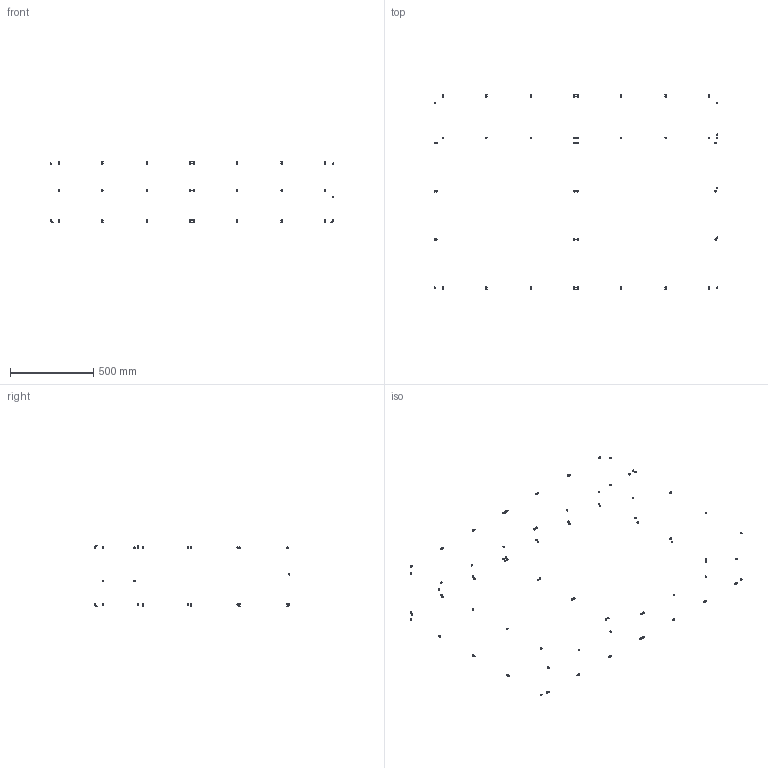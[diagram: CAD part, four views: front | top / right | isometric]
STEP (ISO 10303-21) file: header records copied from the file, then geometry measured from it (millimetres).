
FILE_DESCRIPTION(/* description */ (''),/* implementation_level */ '2;1');
FILE_NAME(/* name */ 'FR73BE~1',/* time_stamp */ '2014-02-14T19:51:54+01:00',/* author */ (''),/* organization */ (''),/* preprocessor_version */ 'ST-DEVELOPER v14',/* originating_system */ '',/* authorisation */ '');
FILE_SCHEMA (('AUTOMOTIVE_DESIGN'));
Length unit declared in the file: millimetre
Products named in the file (2): Document; screw ISO7380-like, button, M5x06
Assembly tree (55 placements, depth 2):
  Document
    screw ISO7380-like, button, M5x06  x55
Bounding box: 1707.5 x 1177.5 x 367.5 mm (x, y, z)
Volume: 25247.7 mm3; surface area: 28305.9 mm2
Topology: 98 solids, 98 shells, 2450 faces, 5684 edges, 3430 vertices
Faces by surface type: plane 1470, bspline 980
Entity records: 67009 total; most frequent: CARTESIAN_POINT 33762, B_SPLINE_CURVE_WITH_KNOTS 5544, ORIENTED_EDGE 4928, PCURVE 4928, DEFINITIONAL_REPRESENTATION 4928, SURFACE_CURVE 2464, EDGE_CURVE 2464, VERTEX_POINT 1540
